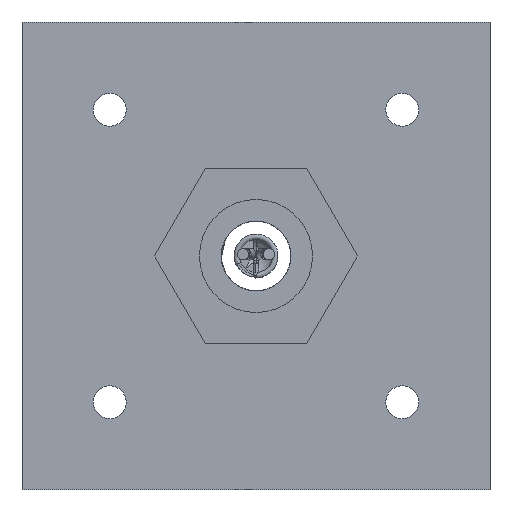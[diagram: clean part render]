
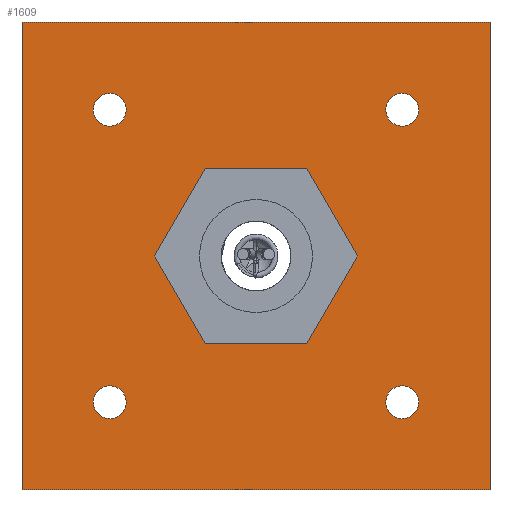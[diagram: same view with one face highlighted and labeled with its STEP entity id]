
A CAD part, left-side view. The second image highlights one B-rep face of the part: STEP entity #1609.
In plain terms, the highlighted planar face has unit normal (-1, 0, 0).
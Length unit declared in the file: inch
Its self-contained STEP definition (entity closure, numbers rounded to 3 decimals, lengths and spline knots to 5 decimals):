
#55=FACE_BOUND('',#356,.T.);
#56=FACE_BOUND('',#357,.T.);
#57=FACE_BOUND('',#358,.T.);
#58=FACE_BOUND('',#359,.T.);
#59=FACE_BOUND('',#360,.T.);
#107=PLANE('',#1807);
#238=FACE_OUTER_BOUND('',#355,.T.);
#355=EDGE_LOOP('',(#1462,#1463,#1464,#1465));
#356=EDGE_LOOP('',(#1466));
#357=EDGE_LOOP('',(#1467));
#358=EDGE_LOOP('',(#1468));
#359=EDGE_LOOP('',(#1469));
#360=EDGE_LOOP('',(#1470));
#432=CIRCLE('',#1792,0.25875);
#435=CIRCLE('',#1796,0.07);
#436=CIRCLE('',#1798,0.07);
#439=CIRCLE('',#1802,0.07);
#440=CIRCLE('',#1804,0.07);
#547=LINE('',#5221,#660);
#548=LINE('',#5223,#661);
#549=LINE('',#5225,#662);
#550=LINE('',#5226,#663);
#660=VECTOR('',#2257,0.3937);
#661=VECTOR('',#2258,0.3937);
#662=VECTOR('',#2259,0.3937);
#663=VECTOR('',#2260,0.3937);
#794=VERTEX_POINT('',#5180);
#797=VERTEX_POINT('',#5188);
#798=VERTEX_POINT('',#5192);
#801=VERTEX_POINT('',#5200);
#802=VERTEX_POINT('',#5204);
#808=VERTEX_POINT('',#5219);
#809=VERTEX_POINT('',#5220);
#810=VERTEX_POINT('',#5222);
#811=VERTEX_POINT('',#5224);
#1010=EDGE_CURVE('',#794,#794,#432,.T.);
#1015=EDGE_CURVE('',#797,#797,#435,.T.);
#1016=EDGE_CURVE('',#798,#798,#436,.T.);
#1021=EDGE_CURVE('',#801,#801,#439,.T.);
#1022=EDGE_CURVE('',#802,#802,#440,.T.);
#1029=EDGE_CURVE('',#808,#809,#547,.T.);
#1030=EDGE_CURVE('',#810,#808,#548,.T.);
#1031=EDGE_CURVE('',#811,#810,#549,.T.);
#1032=EDGE_CURVE('',#809,#811,#550,.T.);
#1462=ORIENTED_EDGE('',*,*,#1029,.F.);
#1463=ORIENTED_EDGE('',*,*,#1030,.F.);
#1464=ORIENTED_EDGE('',*,*,#1031,.F.);
#1465=ORIENTED_EDGE('',*,*,#1032,.F.);
#1466=ORIENTED_EDGE('',*,*,#1010,.T.);
#1467=ORIENTED_EDGE('',*,*,#1015,.T.);
#1468=ORIENTED_EDGE('',*,*,#1016,.T.);
#1469=ORIENTED_EDGE('',*,*,#1021,.T.);
#1470=ORIENTED_EDGE('',*,*,#1022,.T.);
#1609=ADVANCED_FACE('',(#238,#55,#56,#57,#58,#59),#107,.T.);
#1792=AXIS2_PLACEMENT_3D('',#5181,#2216,#2217);
#1796=AXIS2_PLACEMENT_3D('',#5190,#2226,#2227);
#1798=AXIS2_PLACEMENT_3D('',#5193,#2230,#2231);
#1802=AXIS2_PLACEMENT_3D('',#5202,#2240,#2241);
#1804=AXIS2_PLACEMENT_3D('',#5205,#2244,#2245);
#1807=AXIS2_PLACEMENT_3D('',#5218,#2255,#2256);
#2216=DIRECTION('center_axis',(1.,0.,0.));
#2217=DIRECTION('ref_axis',(0.,0.581,0.814));
#2226=DIRECTION('center_axis',(1.,0.,0.));
#2227=DIRECTION('ref_axis',(0.,-0.814,0.581));
#2230=DIRECTION('center_axis',(1.,0.,0.));
#2231=DIRECTION('ref_axis',(0.,0.814,-0.581));
#2240=DIRECTION('center_axis',(1.,0.,0.));
#2241=DIRECTION('ref_axis',(0.,0.814,-0.581));
#2244=DIRECTION('center_axis',(1.,0.,0.));
#2245=DIRECTION('ref_axis',(0.,-0.814,0.581));
#2255=DIRECTION('center_axis',(-1.,0.,0.));
#2256=DIRECTION('ref_axis',(0.,0.,1.));
#2257=DIRECTION('',(0.,-1.,0.));
#2258=DIRECTION('',(0.,0.,1.));
#2259=DIRECTION('',(0.,1.,0.));
#2260=DIRECTION('',(0.,0.,-1.));
#5180=CARTESIAN_POINT('',(3.54096,1.14913,0.12113));
#5181=CARTESIAN_POINT('Origin',(3.54096,1.14913,0.37988));
#5188=CARTESIAN_POINT('',(3.54096,1.84413,-0.24512));
#5190=CARTESIAN_POINT('Origin',(3.54096,1.77413,-0.24512));
#5192=CARTESIAN_POINT('',(3.54096,0.45413,-0.24512));
#5193=CARTESIAN_POINT('Origin',(3.54096,0.52413,-0.24512));
#5200=CARTESIAN_POINT('',(3.54096,0.45413,1.00488));
#5202=CARTESIAN_POINT('Origin',(3.54096,0.52413,1.00488));
#5204=CARTESIAN_POINT('',(3.54096,1.84413,1.00488));
#5205=CARTESIAN_POINT('Origin',(3.54096,1.77413,1.00488));
#5218=CARTESIAN_POINT('Origin',(3.54096,0.14913,0.37988));
#5219=CARTESIAN_POINT('',(3.54096,2.14913,1.37988));
#5220=CARTESIAN_POINT('',(3.54096,0.14913,1.37988));
#5221=CARTESIAN_POINT('',(3.54096,2.14913,1.37988));
#5222=CARTESIAN_POINT('',(3.54096,2.14913,-0.62012));
#5223=CARTESIAN_POINT('',(3.54096,2.14913,-0.62012));
#5224=CARTESIAN_POINT('',(3.54096,0.14913,-0.62012));
#5225=CARTESIAN_POINT('',(3.54096,0.14913,-0.62012));
#5226=CARTESIAN_POINT('',(3.54096,0.14913,1.37988));
